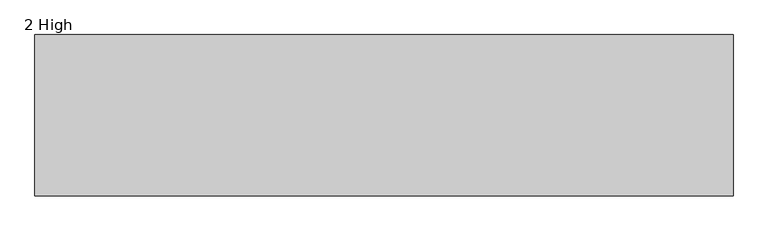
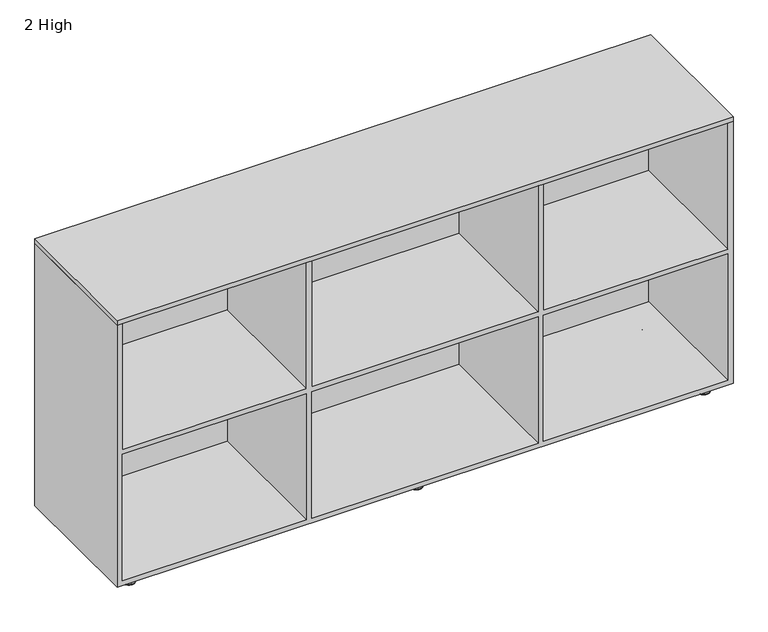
"""IFC4 building model written with IfcOpenShell, lengths in millimetres: furniture geometry, Steelcase Turnstone - Bivi - Storage - Depot : 2 High."""

from ifc_helpers import new_model, si_unit, point, frame, frame_2d, origin, place, context, project, spatial, polyline, circle_curve, ellipse_curve, trimmed, segment, composite_curve, outline, extrude, faceted_brep, source, transform, mapped, element, save
from ifc_brep_helpers import plane_surface, cylinder_surface, revolved_surface, spline_surface, advanced_brep


def furniture_2_high_e7bb6557(model_context):
    return source(origin(), model_context, "Body", "SolidModel", [
        extrude(outline(polyline([(1524.0, 0.0), (0.0, 0.0), (0.0, 352.425), (1524.0, 352.425), (1524.0, 0.0)])), frame((0.0, 0.0, 711.2), z_axis=(0.0, 0.0, 1.0), x_axis=(1.0, 0.0, 0.0)), (0.0, 0.0, 1.0), 11.8411135),
        advanced_brep(
        [(776.7323801, 38.0780241, 2.6178944), (747.2988961, 38.0780241, 2.6178944), (762.0156381, 38.0780241, 2.6178944), (769.706563, 38.0780241, 8.8411838), (754.3247132, 38.0780241, 8.8411838), (769.706563, 38.0780241, 10.8986525), (754.3247132, 38.0780241, 10.8986525), (762.0156381, 38.0780241, 10.8986525)],
        [
            (0, 1, circle_curve(frame((762.0156381, 38.0780241, 2.6178944), z_axis=(0.0, 0.0, -1.0), x_axis=(-1.0, 0.0, 0.0)), 14.716742)),
            (1, 2),
            (2, 0),
            (1, 0, circle_curve(frame((762.0156381, 38.0780241, 2.6178944), z_axis=(0.0, 0.0, -1.0), x_axis=(-1.0, 0.0, 0.0)), 14.716742)),
            (3, 4, circle_curve(frame((762.0156381, 38.0780241, 8.8411838), z_axis=(0.0, 0.0, -1.0), x_axis=(-1.0, 0.0, 0.0)), 7.6909249)),
            (4, 1, circle_curve(frame((748.0218845, 38.0780241, 8.8792349), z_axis=(0.0, 1.0, 0.0), x_axis=(1.0, 0.0, 0.0)), 6.3029436)),
            (0, 3, circle_curve(frame((776.0093917, 38.0780241, 8.8792349), z_axis=(0.0, 1.0, 0.0), x_axis=(-1.0, 0.0, 0.0)), 6.3029436)),
            (4, 3, circle_curve(frame((762.0156381, 38.0780241, 8.8411838), z_axis=(0.0, 0.0, -1.0), x_axis=(-1.0, 0.0, 0.0)), 7.6909249)),
            (5, 6, circle_curve(frame((762.0156381, 38.0780241, 10.8986525), z_axis=(0.0, 0.0, -1.0), x_axis=(-1.0, 0.0, 0.0)), 7.6909249)),
            (6, 4),
            (3, 5),
            (6, 5, circle_curve(frame((762.0156381, 38.0780241, 10.8986525), z_axis=(0.0, 0.0, -1.0), x_axis=(-1.0, 0.0, 0.0)), 7.6909249)),
            (7, 6),
            (5, 7),
        ],
        [
            plane_surface(frame((762.0156381, 38.0780241, 2.6178944), z_axis=(0.0, 0.0, -1.0), x_axis=(-1.0, 0.0, 0.0))),
            revolved_surface(trimmed(ellipse_curve(frame((748.0218845, 38.0780241, 8.8792349), z_axis=(0.0, -1.0, 0.0), x_axis=(1.0, 0.0, 0.0)), 6.3029436, 6.3029436), [point((747.2988961, 38.0780241, 2.6178944))], [point((754.3247132, 38.0780241, 8.8411838))], True, "CARTESIAN"), (762.0156381, 38.0780241, 10.8986525), (0.0, 0.0, 1.0)),
            cylinder_surface(frame((762.0156381, 38.0780241, 10.8986525), z_axis=(0.0, 0.0, 1.0), x_axis=(-1.0, 0.0, 0.0)), 7.6909249),
            plane_surface(frame((762.0156381, 38.0780241, 10.8986525), z_axis=(0.0, 0.0, 1.0), x_axis=(-1.0, 0.0, 0.0))),
        ],
        [
            (0, [[1, 2, 3]]),
            (0, [[4, -3, -2]]),
            (1, [[5, 6, -1, 7]]),
            (1, [[8, -7, -4, -6]]),
            (2, [[9, 10, -5, 11]]),
            (2, [[12, -11, -8, -10]]),
            (3, [[13, -9, 14]]),
            (3, [[-14, -12, -13]]),
        ],
    ),
        advanced_brep(
        [(775.1743443, 38.0780241, 0.0), (748.8795601, 38.0780241, 0.0), (762.0269522, 38.0780241, 0.0), (776.7550083, 38.0780241, 1.580664), (747.2988961, 38.0780241, 1.580664), (776.7550083, 38.0780241, 2.6178944), (747.2988961, 38.0780241, 2.6178944), (762.0269522, 38.0780241, 2.6178944)],
        [
            (0, 1, circle_curve(frame((762.0269522, 38.0780241, 0.0), z_axis=(0.0, 0.0, -1.0), x_axis=(-1.0, 0.0, 0.0)), 13.1473921)),
            (1, 2),
            (2, 0),
            (1, 0, circle_curve(frame((762.0269522, 38.0780241, 0.0), z_axis=(0.0, 0.0, -1.0), x_axis=(-1.0, 0.0, 0.0)), 13.1473921)),
            (3, 4, circle_curve(frame((762.0269522, 38.0780241, 1.580664), z_axis=(0.0, 0.0, -1.0), x_axis=(-1.0, 0.0, 0.0)), 14.7280561)),
            (4, 1, circle_curve(frame((748.8795601, 38.0780241, 1.580664), z_axis=(0.0, -1.0, 0.0), x_axis=(1.0, 0.0, 0.0)), 1.580664)),
            (0, 3, circle_curve(frame((775.1743443, 38.0780241, 1.580664), z_axis=(0.0, -1.0, 0.0), x_axis=(-1.0, 0.0, 0.0)), 1.580664)),
            (4, 3, circle_curve(frame((762.0269522, 38.0780241, 1.580664), z_axis=(0.0, 0.0, -1.0), x_axis=(-1.0, 0.0, 0.0)), 14.7280561)),
            (5, 6, circle_curve(frame((762.0269522, 38.0780241, 2.6178944), z_axis=(0.0, 0.0, -1.0), x_axis=(-1.0, 0.0, 0.0)), 14.7280561)),
            (6, 4),
            (3, 5),
            (6, 5, circle_curve(frame((762.0269522, 38.0780241, 2.6178944), z_axis=(0.0, 0.0, -1.0), x_axis=(-1.0, 0.0, 0.0)), 14.7280561)),
            (7, 6),
            (5, 7),
        ],
        [
            plane_surface(frame((762.0269522, 38.0780241, 0.0), z_axis=(0.0, 0.0, -1.0), x_axis=(-1.0, 0.0, 0.0))),
            revolved_surface(trimmed(ellipse_curve(frame((748.8795601, 38.0780241, 1.580664), z_axis=(0.0, 1.0, 0.0), x_axis=(1.0, 0.0, 0.0)), 1.580664, 1.580664), [point((748.8795601, 38.0780241, 0.0))], [point((747.2988961, 38.0780241, 1.580664))], True, "CARTESIAN"), (762.0269522, 38.0780241, 2.6178944), (0.0, 0.0, 1.0)),
            cylinder_surface(frame((762.0269522, 38.0780241, 2.6178944), z_axis=(0.0, 0.0, 1.0), x_axis=(-1.0, 0.0, 0.0)), 14.7280561),
            plane_surface(frame((762.0269522, 38.0780241, 2.6178944), z_axis=(0.0, 0.0, 1.0), x_axis=(-1.0, 0.0, 0.0))),
        ],
        [
            (0, [[1, 2, 3]]),
            (0, [[4, -3, -2]]),
            (1, [[5, 6, -1, 7]]),
            (1, [[8, -7, -4, -6]]),
            (2, [[9, 10, -5, 11]]),
            (2, [[12, -11, -8, -10]]),
            (3, [[13, -9, 14]]),
            (3, [[-14, -12, -13]]),
        ],
    ),
        extrude(outline(composite_curve([segment(trimmed(circle_curve(frame_2d((762.0156381, 38.1183079)), 3.9557313), [point((758.0599068, 38.1183079))], [point((765.9713694, 38.1183079))], False, "CARTESIAN"), True, "CONTINUOUS"), segment(trimmed(circle_curve(frame_2d((762.0156381, 38.1183079)), 3.9557313), [point((765.9713694, 38.1183079))], [point((758.0599068, 38.1183079))], False, "CARTESIAN"), True, "CONTINUOUS")], self_intersect=False)), frame((0.0, 0.0, 10.8986525), z_axis=(0.0, 0.0, 1.0), x_axis=(1.0, 0.0, 0.0)), (0.0, 0.0, 1.0), 11.6640053),
        advanced_brep(
        [(758.0822362, 38.1098067, 22.5626578), (765.9722002, 38.1098067, 22.5626578), (759.079, 38.1098067, 23.622), (764.9502172, 38.1098067, 23.622)],
        [
            (0, 1, circle_curve(frame((762.0272182, 38.1098067, 22.5626578), z_axis=(0.0, 0.0, -1.0), x_axis=(1.0, 0.0, 0.0)), 3.944982)),
            (1, 0, circle_curve(frame((762.0272182, 38.1098067, 22.5626578), z_axis=(0.0, 0.0, -1.0), x_axis=(1.0, 0.0, 0.0)), 3.944982)),
            (2, 3, circle_curve(frame((762.0146086, 38.1098067, 23.622), z_axis=(0.0, 0.0, 1.0), x_axis=(1.0, 0.0, 0.0)), 2.9356086)),
            (3, 2, circle_curve(frame((762.0146086, 38.1098067, 23.622), z_axis=(0.0, 0.0, 1.0), x_axis=(1.0, 0.0, 0.0)), 2.9356086)),
            (3, 1),
            (0, 2),
        ],
        [
            plane_surface(frame((762.0272182, 38.1098067, 22.5626578), z_axis=(0.0, 0.0, -1.0), x_axis=(0.0, -1.0, 0.0))),
            plane_surface(frame((762.0146086, 38.1098067, 23.622), z_axis=(0.0, 0.0, 1.0), x_axis=(0.0, -1.0, 0.0))),
            spline_surface(2, 1, [[(759.079, 38.1098067, 23.622), (758.0822362, 38.1098067, 22.5626578)], [(759.079, 41.04541530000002, 23.622), (758.0822362, 42.05478869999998, 22.5626578)], [(762.0146086, 41.04541530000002, 23.622), (762.0272182, 42.05478869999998, 22.5626578)], [(764.9502172, 41.04541530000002, 23.622), (765.9722002, 42.05478869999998, 22.5626578)], [(764.9502172, 38.1098067, 23.622), (765.9722002, 38.1098067, 22.5626578)]], [3, 2, 3], [2, 2], [0.0, 1.0, 2.0], [0.0, 1.0], weights=[[1.0, 1.0], [0.7071067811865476, 0.7071067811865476], [1.0, 1.0], [0.7071067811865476, 0.7071067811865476], [1.0, 1.0]]),
            spline_surface(2, 1, [[(764.9502172, 38.1098067, 23.622), (765.9722002, 38.1098067, 22.5626578)], [(764.9502172, 35.17419809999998, 23.622), (765.9722002, 34.16482470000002, 22.5626578)], [(762.0146086, 35.17419809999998, 23.622), (762.0272182, 34.16482470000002, 22.5626578)], [(759.079, 35.17419809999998, 23.622), (758.0822362, 34.16482470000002, 22.5626578)], [(759.079, 38.1098067, 23.622), (758.0822362, 38.1098067, 22.5626578)]], [3, 2, 3], [2, 2], [0.0, 1.0, 2.0], [0.0, 1.0], weights=[[1.0, 1.0], [0.7071067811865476, 0.7071067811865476], [1.0, 1.0], [0.7071067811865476, 0.7071067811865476], [1.0, 1.0]]),
        ],
        [
            (0, [[1, 2]]),
            (1, [[3, 4]]),
            (2, [[-4, 5, -1, 6]]),
            (3, [[-3, -6, -2, -5]]),
        ],
    ),
        advanced_brep(
        [(769.706563, 314.3469759, 10.8986525), (754.3247132, 314.3469759, 10.8986525), (762.0156381, 314.3469759, 10.8986525), (769.706563, 314.3469759, 8.8411838), (754.3247132, 314.3469759, 8.8411838), (776.7323801, 314.3469759, 2.6178944), (747.2988961, 314.3469759, 2.6178944), (762.0156381, 314.3469759, 2.6178944)],
        [
            (0, 1, circle_curve(frame((762.0156381, 314.3469759, 10.8986525), z_axis=(0.0, 0.0, 1.0), x_axis=(-1.0, 0.0, 0.0)), 7.6909249)),
            (1, 2),
            (2, 0),
            (1, 0, circle_curve(frame((762.0156381, 314.3469759, 10.8986525), z_axis=(0.0, 0.0, 1.0), x_axis=(-1.0, 0.0, 0.0)), 7.6909249)),
            (3, 4, circle_curve(frame((762.0156381, 314.3469759, 8.8411838), z_axis=(0.0, 0.0, 1.0), x_axis=(-1.0, 0.0, 0.0)), 7.6909249)),
            (4, 1),
            (0, 3),
            (4, 3, circle_curve(frame((762.0156381, 314.3469759, 8.8411838), z_axis=(0.0, 0.0, 1.0), x_axis=(-1.0, 0.0, 0.0)), 7.6909249)),
            (5, 6, circle_curve(frame((762.0156381, 314.3469759, 2.6178944), z_axis=(0.0, 0.0, 1.0), x_axis=(-1.0, 0.0, 0.0)), 14.716742)),
            (6, 4, circle_curve(frame((748.0218845, 314.3469759, 8.8792349), z_axis=(0.0, -1.0, 0.0), x_axis=(1.0, 0.0, 0.0)), 6.3029436)),
            (3, 5, circle_curve(frame((776.0093917, 314.3469759, 8.8792349), z_axis=(0.0, -1.0, 0.0), x_axis=(-1.0, 0.0, 0.0)), 6.3029436)),
            (6, 5, circle_curve(frame((762.0156381, 314.3469759, 2.6178944), z_axis=(0.0, 0.0, 1.0), x_axis=(-1.0, 0.0, 0.0)), 14.716742)),
            (7, 6),
            (5, 7),
        ],
        [
            plane_surface(frame((762.0156381, 314.3469759, 10.8986525), z_axis=(0.0, 0.0, 1.0), x_axis=(-1.0, 0.0, 0.0))),
            cylinder_surface(frame((762.0156381, 314.3469759, 10.8986525), z_axis=(0.0, 0.0, -1.0), x_axis=(-1.0, 0.0, 0.0)), 7.6909249),
            revolved_surface(trimmed(ellipse_curve(frame((748.0218845, 314.3469759, 8.8792349), z_axis=(0.0, 1.0, 0.0), x_axis=(1.0, 0.0, 0.0)), 6.3029436, 6.3029436), [point((754.3247132, 314.3469759, 8.8411838))], [point((747.2988961, 314.3469759, 2.6178944))], True, "CARTESIAN"), (762.0156381, 314.3469759, 10.8986525), (0.0, 0.0, -1.0)),
            plane_surface(frame((762.0156381, 314.3469759, 2.6178944), z_axis=(0.0, 0.0, -1.0), x_axis=(-1.0, 0.0, 0.0))),
        ],
        [
            (0, [[1, 2, 3]]),
            (0, [[4, -3, -2]]),
            (1, [[5, 6, -1, 7]]),
            (1, [[8, -7, -4, -6]]),
            (2, [[9, 10, -5, 11]]),
            (2, [[12, -11, -8, -10]]),
            (3, [[13, -9, 14]]),
            (3, [[-14, -12, -13]]),
        ],
    ),
        advanced_brep(
        [(776.7550083, 314.3469759, 2.6178944), (747.2988961, 314.3469759, 2.6178944), (762.0269522, 314.3469759, 2.6178944), (776.7550083, 314.3469759, 1.580664), (747.2988961, 314.3469759, 1.580664), (775.1743443, 314.3469759, 0.0), (748.8795601, 314.3469759, 0.0), (762.0269522, 314.3469759, 0.0)],
        [
            (0, 1, circle_curve(frame((762.0269522, 314.3469759, 2.6178944), z_axis=(0.0, 0.0, 1.0), x_axis=(-1.0, 0.0, 0.0)), 14.7280561)),
            (1, 2),
            (2, 0),
            (1, 0, circle_curve(frame((762.0269522, 314.3469759, 2.6178944), z_axis=(0.0, 0.0, 1.0), x_axis=(-1.0, 0.0, 0.0)), 14.7280561)),
            (3, 4, circle_curve(frame((762.0269522, 314.3469759, 1.580664), z_axis=(0.0, 0.0, 1.0), x_axis=(-1.0, 0.0, 0.0)), 14.7280561)),
            (4, 1),
            (0, 3),
            (4, 3, circle_curve(frame((762.0269522, 314.3469759, 1.580664), z_axis=(0.0, 0.0, 1.0), x_axis=(-1.0, 0.0, 0.0)), 14.7280561)),
            (5, 6, circle_curve(frame((762.0269522, 314.3469759, 0.0), z_axis=(0.0, 0.0, 1.0), x_axis=(-1.0, 0.0, 0.0)), 13.1473921)),
            (6, 4, circle_curve(frame((748.8795601, 314.3469759, 1.580664), z_axis=(0.0, 1.0, 0.0), x_axis=(1.0, 0.0, 0.0)), 1.580664)),
            (3, 5, circle_curve(frame((775.1743443, 314.3469759, 1.580664), z_axis=(0.0, 1.0, 0.0), x_axis=(-1.0, 0.0, 0.0)), 1.580664)),
            (6, 5, circle_curve(frame((762.0269522, 314.3469759, 0.0), z_axis=(0.0, 0.0, 1.0), x_axis=(-1.0, 0.0, 0.0)), 13.1473921)),
            (7, 6),
            (5, 7),
        ],
        [
            plane_surface(frame((762.0269522, 314.3469759, 2.6178944), z_axis=(0.0, 0.0, 1.0), x_axis=(-1.0, 0.0, 0.0))),
            cylinder_surface(frame((762.0269522, 314.3469759, 2.6178944), z_axis=(0.0, 0.0, -1.0), x_axis=(-1.0, 0.0, 0.0)), 14.7280561),
            revolved_surface(trimmed(ellipse_curve(frame((748.8795601, 314.3469759, 1.580664), z_axis=(0.0, -1.0, 0.0), x_axis=(1.0, 0.0, 0.0)), 1.580664, 1.580664), [point((747.2988961, 314.3469759, 1.580664))], [point((748.8795601, 314.3469759, 0.0))], True, "CARTESIAN"), (762.0269522, 314.3469759, 2.6178944), (0.0, 0.0, -1.0)),
            plane_surface(frame((762.0269522, 314.3469759, 0.0), z_axis=(0.0, 0.0, -1.0), x_axis=(-1.0, 0.0, 0.0))),
        ],
        [
            (0, [[1, 2, 3]]),
            (0, [[4, -3, -2]]),
            (1, [[5, 6, -1, 7]]),
            (1, [[8, -7, -4, -6]]),
            (2, [[9, 10, -5, 11]]),
            (2, [[12, -11, -8, -10]]),
            (3, [[13, -9, 14]]),
            (3, [[-14, -12, -13]]),
        ],
    ),
        extrude(outline(composite_curve([segment(trimmed(circle_curve(frame_2d((762.0156381, 314.3066921)), 3.9557313), [point((758.0599068, 314.3066921))], [point((765.9713694, 314.3066921))], False, "CARTESIAN"), True, "CONTINUOUS"), segment(trimmed(circle_curve(frame_2d((762.0156381, 314.3066921)), 3.9557313), [point((765.9713694, 314.3066921))], [point((758.0599068, 314.3066921))], False, "CARTESIAN"), True, "CONTINUOUS")], self_intersect=False)), frame((0.0, 0.0, 10.8986525), z_axis=(0.0, 0.0, 1.0), x_axis=(1.0, 0.0, 0.0)), (0.0, 0.0, 1.0), 11.6640053),
        advanced_brep(
        [(758.0822362, 314.3151933, 22.5626578), (765.9722002, 314.3151933, 22.5626578), (759.079, 314.3151933, 23.622), (764.9502172, 314.3151933, 23.622)],
        [
            (0, 1, circle_curve(frame((762.0272182, 314.3151933, 22.5626578), z_axis=(0.0, 0.0, -1.0), x_axis=(1.0, 0.0, 0.0)), 3.944982)),
            (1, 0, circle_curve(frame((762.0272182, 314.3151933, 22.5626578), z_axis=(0.0, 0.0, -1.0), x_axis=(1.0, 0.0, 0.0)), 3.944982)),
            (2, 3, circle_curve(frame((762.0146086, 314.3151933, 23.622), z_axis=(0.0, 0.0, 1.0), x_axis=(1.0, 0.0, 0.0)), 2.9356086)),
            (3, 2, circle_curve(frame((762.0146086, 314.3151933, 23.622), z_axis=(0.0, 0.0, 1.0), x_axis=(1.0, 0.0, 0.0)), 2.9356086)),
            (3, 1),
            (0, 2),
        ],
        [
            plane_surface(frame((762.0272182, 314.3151933, 22.5626578), z_axis=(0.0, 0.0, -1.0), x_axis=(0.0, -1.0, 0.0))),
            plane_surface(frame((762.0146086, 314.3151933, 23.622), z_axis=(0.0, 0.0, 1.0), x_axis=(0.0, -1.0, 0.0))),
            spline_surface(2, 1, [[(759.079, 314.3151933, 23.622), (758.0822362, 314.3151933, 22.5626578)], [(759.079, 317.2508019, 23.622), (758.0822362, 318.26017529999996, 22.5626578)], [(762.0146086, 317.2508019, 23.622), (762.0272182, 318.26017529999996, 22.5626578)], [(764.9502172, 317.2508019, 23.622), (765.9722002, 318.26017529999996, 22.5626578)], [(764.9502172, 314.3151933, 23.622), (765.9722002, 314.3151933, 22.5626578)]], [3, 2, 3], [2, 2], [0.0, 1.0, 2.0], [0.0, 1.0], weights=[[1.0, 1.0], [0.7071067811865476, 0.7071067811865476], [1.0, 1.0], [0.7071067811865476, 0.7071067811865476], [1.0, 1.0]]),
            spline_surface(2, 1, [[(764.9502172, 314.3151933, 23.622), (765.9722002, 314.3151933, 22.5626578)], [(764.9502172, 311.37958469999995, 23.622), (765.9722002, 310.3702113, 22.5626578)], [(762.0146086, 311.37958469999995, 23.622), (762.0272182, 310.3702113, 22.5626578)], [(759.079, 311.37958469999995, 23.622), (758.0822362, 310.3702113, 22.5626578)], [(759.079, 314.3151933, 23.622), (758.0822362, 314.3151933, 22.5626578)]], [3, 2, 3], [2, 2], [0.0, 1.0, 2.0], [0.0, 1.0], weights=[[1.0, 1.0], [0.7071067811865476, 0.7071067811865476], [1.0, 1.0], [0.7071067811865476, 0.7071067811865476], [1.0, 1.0]]),
        ],
        [
            (0, [[1, 2]]),
            (1, [[3, 4]]),
            (2, [[-4, 5, -1, 6]]),
            (3, [[-3, -6, -2, -5]]),
        ],
    ),
        faceted_brep([(0.0, 0.0, 711.2), (0.0, 0.0, 25.4), (1524.0, 0.0, 25.4), (1524.0, 0.0, 711.2), (1510.9189671, 0.0, 711.2), (1510.9189671, 0.0, 381.0), (1054.3793919, 0.0, 381.0), (1054.3793919, 0.0, 711.2), (1041.2984316, 0.0, 711.2), (1041.2984316, 0.0, 381.0), (481.3553933, 0.0, 381.0), (481.3553933, 0.0, 711.2), (468.2743967, 0.0, 711.2), (468.2743967, 0.0, 381.0), (13.081, 0.0, 381.0), (13.081, 0.0, 711.2), (13.081, 0.0, 368.3), (468.2743967, 0.0, 368.3), (468.2743967, 0.0, 346.6923436), (468.2743967, 0.0, 38.1), (13.081, 0.0, 38.1), (13.081, 0.0, 346.6923436), (481.3553933, 0.0, 368.3), (1041.2984316, 0.0, 368.3), (1041.2984316, 0.0, 346.6923436), (1041.2984316, 0.0, 38.1), (481.3553933, 0.0, 38.1), (481.3553933, 0.0, 346.6923436), (1054.3793919, 0.0, 368.3), (1510.9189671, 0.0, 368.3), (1510.9189671, 0.0, 346.6923436), (1510.9189671, 0.0, 38.1), (1054.3793919, 0.0, 38.1), (1054.3793919, 0.0, 346.6923436), (1524.0, 352.425, 711.2), (1524.0, 352.425, 25.4), (0.0, 352.425, 25.4), (0.0, 352.425, 711.2), (13.081, 339.344, 711.2), (468.2743967, 339.344, 711.2), (481.3553933, 339.344, 711.2), (1041.2984316, 339.344, 711.2), (1054.3793919, 339.344, 711.2), (1510.9189671, 339.344, 711.2), (1054.3793919, 339.344, 381.0), (1510.9189671, 339.344, 381.0), (481.3553933, 339.344, 381.0), (1041.2984316, 339.344, 381.0), (13.081, 339.344, 381.0), (468.2743967, 339.344, 381.0), (468.2743967, 339.344, 368.3), (13.081, 339.344, 368.3), (13.081, 339.344, 346.6923436), (13.081, 339.344, 38.1), (468.2743967, 339.344, 38.1), (468.2743967, 339.344, 346.6923436), (1041.2984316, 339.344, 368.3), (481.3553933, 339.344, 368.3), (481.3553933, 339.344, 346.6923436), (481.3553933, 339.344, 38.1), (1041.2984316, 339.344, 38.1), (1041.2984316, 339.344, 346.6923436), (1510.9189671, 339.344, 368.3), (1054.3793919, 339.344, 368.3), (1054.3793919, 339.344, 346.6923436), (1054.3793919, 339.344, 38.1), (1510.9189671, 339.344, 38.1), (1510.9189671, 339.344, 346.6923436)], [[[0, 1, 2, 3, 4, 5, 6, 7, 8, 9, 10, 11, 12, 13, 14, 15], [16, 17, 18, 19, 20, 21], [22, 23, 24, 25, 26, 27], [28, 29, 30, 31, 32, 33]], [[34, 35, 36, 37]], [[34, 37, 0, 15, 38, 39, 12, 11, 40, 41, 8, 7, 42, 43, 4, 3]], [[1, 0, 37, 36]], [[2, 1, 36, 35]], [[3, 2, 35, 34]], [[42, 44, 45, 43]], [[40, 46, 47, 41]], [[38, 48, 49, 39]], [[50, 51, 52, 53, 54, 55]], [[56, 57, 58, 59, 60, 61]], [[62, 63, 64, 65, 66, 67]], [[48, 38, 15, 14]], [[49, 48, 14, 13]], [[39, 49, 13, 12]], [[46, 40, 11, 10]], [[47, 46, 10, 9]], [[41, 47, 9, 8]], [[44, 42, 7, 6]], [[45, 44, 6, 5]], [[43, 45, 5, 4]], [[51, 16, 21, 20, 53, 52]], [[54, 53, 20, 19]], [[17, 50, 55, 54, 19, 18]], [[57, 22, 27, 26, 59, 58]], [[60, 59, 26, 25]], [[23, 56, 61, 60, 25, 24]], [[63, 28, 33, 32, 65, 64]], [[66, 65, 32, 31]], [[29, 62, 67, 66, 31, 30]], [[51, 50, 17, 16]], [[57, 56, 23, 22]], [[63, 62, 29, 28]]]),
        extrude(outline(polyline([(25.4000008, 13.0809966), (25.4000008, 339.344), (76.2, 339.344), (76.2, 13.0809966), (25.4000008, 13.0809966)])), frame((0.0, 0.0, 15.8750011), z_axis=(0.0, 0.0, 1.0), x_axis=(1.0, 0.0, 0.0)), (0.0, 0.0, 1.0), 9.5249989),
        extrude(outline(polyline([(736.6000242, 13.0809966), (736.6000242, 339.344), (787.4000235, 339.344), (787.4000235, 13.0809966), (736.6000242, 13.0809966)])), frame((0.0, 0.0, 15.8750011), z_axis=(0.0, 0.0, 1.0), x_axis=(1.0, 0.0, 0.0)), (0.0, 0.0, 1.0), 9.5249989),
        extrude(outline(polyline([(1447.8, 13.0809966), (1447.8, 339.344), (1498.5999992, 339.344), (1498.5999992, 13.0809966), (1447.8, 13.0809966)])), frame((0.0, 0.0, 15.8750011), z_axis=(0.0, 0.0, 1.0), x_axis=(1.0, 0.0, 0.0)), (0.0, 0.0, 1.0), 9.5249989),
        advanced_brep(
        [(1465.5173965, 38.0780241, 10.8986525), (1480.8992463, 38.0780241, 10.8986525), (1473.2083214, 38.0780241, 10.8986525), (1465.5173965, 38.0780241, 8.8411838), (1480.8992463, 38.0780241, 8.8411838), (1458.4915794, 38.0780241, 2.6178944), (1487.9250634, 38.0780241, 2.6178944), (1473.2083214, 38.0780241, 2.6178944)],
        [
            (0, 1, circle_curve(frame((1473.2083214, 38.0780241, 10.8986525), z_axis=(0.0, 0.0, 1.0), x_axis=(1.0, 0.0, 0.0)), 7.6909249)),
            (1, 2),
            (2, 0),
            (1, 0, circle_curve(frame((1473.2083214, 38.0780241, 10.8986525), z_axis=(0.0, 0.0, 1.0), x_axis=(1.0, 0.0, 0.0)), 7.6909249)),
            (3, 4, circle_curve(frame((1473.2083214, 38.0780241, 8.8411838), z_axis=(0.0, 0.0, 1.0), x_axis=(1.0, 0.0, 0.0)), 7.6909249)),
            (4, 1),
            (0, 3),
            (4, 3, circle_curve(frame((1473.2083214, 38.0780241, 8.8411838), z_axis=(0.0, 0.0, 1.0), x_axis=(1.0, 0.0, 0.0)), 7.6909249)),
            (5, 6, circle_curve(frame((1473.2083214, 38.0780241, 2.6178944), z_axis=(0.0, 0.0, 1.0), x_axis=(1.0, 0.0, 0.0)), 14.716742)),
            (6, 4, circle_curve(frame((1487.202075, 38.0780241, 8.8792349), z_axis=(0.0, 1.0, 0.0), x_axis=(-1.0, 0.0, 0.0)), 6.3029436)),
            (3, 5, circle_curve(frame((1459.2145678, 38.0780241, 8.8792349), z_axis=(0.0, 1.0, 0.0), x_axis=(1.0, 0.0, 0.0)), 6.3029436)),
            (6, 5, circle_curve(frame((1473.2083214, 38.0780241, 2.6178944), z_axis=(0.0, 0.0, 1.0), x_axis=(1.0, 0.0, 0.0)), 14.716742)),
            (7, 6),
            (5, 7),
        ],
        [
            plane_surface(frame((1473.2083214, 38.0780241, 10.8986525), z_axis=(0.0, 0.0, 1.0), x_axis=(1.0, 0.0, 0.0))),
            cylinder_surface(frame((1473.2083214, 38.0780241, 10.8986525), z_axis=(0.0, 0.0, -1.0), x_axis=(1.0, 0.0, 0.0)), 7.6909249),
            revolved_surface(trimmed(ellipse_curve(frame((1487.202075, 38.0780241, 8.8792349), z_axis=(0.0, -1.0, 0.0), x_axis=(-1.0, 0.0, 0.0)), 6.3029436, 6.3029436), [point((1480.8992463, 38.0780241, 8.8411838))], [point((1487.9250634, 38.0780241, 2.6178944))], True, "CARTESIAN"), (1473.2083214, 38.0780241, 10.8986525), (0.0, 0.0, -1.0)),
            plane_surface(frame((1473.2083214, 38.0780241, 2.6178944), z_axis=(0.0, 0.0, -1.0), x_axis=(1.0, 0.0, 0.0))),
        ],
        [
            (0, [[1, 2, 3]]),
            (0, [[4, -3, -2]]),
            (1, [[5, 6, -1, 7]]),
            (1, [[8, -7, -4, -6]]),
            (2, [[9, 10, -5, 11]]),
            (2, [[12, -11, -8, -10]]),
            (3, [[13, -9, 14]]),
            (3, [[-14, -12, -13]]),
        ],
    ),
        advanced_brep(
        [(1458.4689512, 38.0780241, 2.6178944), (1487.9250634, 38.0780241, 2.6178944), (1473.1970073, 38.0780241, 2.6178944), (1458.4689512, 38.0780241, 1.580664), (1487.9250634, 38.0780241, 1.580664), (1460.0496152, 38.0780241, 0.0), (1486.3443994, 38.0780241, 0.0), (1473.1970073, 38.0780241, 0.0)],
        [
            (0, 1, circle_curve(frame((1473.1970073, 38.0780241, 2.6178944), z_axis=(0.0, 0.0, 1.0), x_axis=(1.0, 0.0, 0.0)), 14.7280561)),
            (1, 2),
            (2, 0),
            (1, 0, circle_curve(frame((1473.1970073, 38.0780241, 2.6178944), z_axis=(0.0, 0.0, 1.0), x_axis=(1.0, 0.0, 0.0)), 14.7280561)),
            (3, 4, circle_curve(frame((1473.1970073, 38.0780241, 1.580664), z_axis=(0.0, 0.0, 1.0), x_axis=(1.0, 0.0, 0.0)), 14.7280561)),
            (4, 1),
            (0, 3),
            (4, 3, circle_curve(frame((1473.1970073, 38.0780241, 1.580664), z_axis=(0.0, 0.0, 1.0), x_axis=(1.0, 0.0, 0.0)), 14.7280561)),
            (5, 6, circle_curve(frame((1473.1970073, 38.0780241, 0.0), z_axis=(0.0, 0.0, 1.0), x_axis=(1.0, 0.0, 0.0)), 13.1473921)),
            (6, 4, circle_curve(frame((1486.3443994, 38.0780241, 1.580664), z_axis=(0.0, -1.0, 0.0), x_axis=(-1.0, 0.0, 0.0)), 1.580664)),
            (3, 5, circle_curve(frame((1460.0496152, 38.0780241, 1.580664), z_axis=(0.0, -1.0, 0.0), x_axis=(1.0, 0.0, 0.0)), 1.580664)),
            (6, 5, circle_curve(frame((1473.1970073, 38.0780241, 0.0), z_axis=(0.0, 0.0, 1.0), x_axis=(1.0, 0.0, 0.0)), 13.1473921)),
            (7, 6),
            (5, 7),
        ],
        [
            plane_surface(frame((1473.1970073, 38.0780241, 2.6178944), z_axis=(0.0, 0.0, 1.0), x_axis=(1.0, 0.0, 0.0))),
            cylinder_surface(frame((1473.1970073, 38.0780241, 2.6178944), z_axis=(0.0, 0.0, -1.0), x_axis=(1.0, 0.0, 0.0)), 14.7280561),
            revolved_surface(trimmed(ellipse_curve(frame((1486.3443994, 38.0780241, 1.580664), z_axis=(0.0, 1.0, 0.0), x_axis=(-1.0, 0.0, 0.0)), 1.580664, 1.580664), [point((1487.9250634, 38.0780241, 1.580664))], [point((1486.3443994, 38.0780241, 0.0))], True, "CARTESIAN"), (1473.1970073, 38.0780241, 2.6178944), (0.0, 0.0, -1.0)),
            plane_surface(frame((1473.1970073, 38.0780241, 0.0), z_axis=(0.0, 0.0, -1.0), x_axis=(1.0, 0.0, 0.0))),
        ],
        [
            (0, [[1, 2, 3]]),
            (0, [[4, -3, -2]]),
            (1, [[5, 6, -1, 7]]),
            (1, [[8, -7, -4, -6]]),
            (2, [[9, 10, -5, 11]]),
            (2, [[12, -11, -8, -10]]),
            (3, [[13, -9, 14]]),
            (3, [[-14, -12, -13]]),
        ],
    ),
        extrude(outline(composite_curve([segment(trimmed(circle_curve(frame_2d((1473.2083214, 38.1183079)), 3.9557313), [point((1477.1640527, 38.1183079))], [point((1469.2525901, 38.1183079))], False, "CARTESIAN"), True, "CONTINUOUS"), segment(trimmed(circle_curve(frame_2d((1473.2083214, 38.1183079)), 3.9557313), [point((1469.2525901, 38.1183079))], [point((1477.1640527, 38.1183079))], False, "CARTESIAN"), True, "CONTINUOUS")], self_intersect=False)), frame((0.0, 0.0, 10.8986525), z_axis=(0.0, 0.0, 1.0), x_axis=(1.0, 0.0, 0.0)), (0.0, 0.0, 1.0), 11.6640053),
        advanced_brep(
        [(1477.1417233, 38.1098067, 22.5626578), (1469.2517593, 38.1098067, 22.5626578), (1476.1449595, 38.1098067, 23.622), (1470.2737423, 38.1098067, 23.622)],
        [
            (0, 1, circle_curve(frame((1473.1967413, 38.1098067, 22.5626578), z_axis=(0.0, 0.0, -1.0), x_axis=(-1.0, 0.0, 0.0)), 3.944982)),
            (1, 0, circle_curve(frame((1473.1967413, 38.1098067, 22.5626578), z_axis=(0.0, 0.0, -1.0), x_axis=(-1.0, 0.0, 0.0)), 3.944982)),
            (2, 3, circle_curve(frame((1473.2093509, 38.1098067, 23.622), z_axis=(0.0, 0.0, 1.0), x_axis=(-1.0, 0.0, 0.0)), 2.9356086)),
            (3, 2, circle_curve(frame((1473.2093509, 38.1098067, 23.622), z_axis=(0.0, 0.0, 1.0), x_axis=(-1.0, 0.0, 0.0)), 2.9356086)),
            (3, 1),
            (0, 2),
        ],
        [
            plane_surface(frame((1473.1967413, 38.1098067, 22.5626578), z_axis=(0.0, 0.0, -1.0), x_axis=(0.0, 1.0, 0.0))),
            plane_surface(frame((1473.2093509, 38.1098067, 23.622), z_axis=(0.0, 0.0, 1.0), x_axis=(0.0, 1.0, 0.0))),
            spline_surface(2, 1, [[(1476.1449595, 38.1098067, 23.622), (1477.1417233, 38.1098067, 22.5626578)], [(1476.1449595, 35.17419809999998, 23.622), (1477.1417233, 34.16482470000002, 22.5626578)], [(1473.2093509, 35.17419809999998, 23.622), (1473.1967413, 34.16482470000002, 22.5626578)], [(1470.2737422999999, 35.17419809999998, 23.622), (1469.2517593, 34.16482470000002, 22.5626578)], [(1470.2737423, 38.1098067, 23.622), (1469.2517593, 38.1098067, 22.5626578)]], [3, 2, 3], [2, 2], [0.0, 1.0, 2.0], [0.0, 1.0], weights=[[1.0, 1.0], [0.7071067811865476, 0.7071067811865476], [1.0, 1.0], [0.7071067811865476, 0.7071067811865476], [1.0, 1.0]]),
            spline_surface(2, 1, [[(1470.2737423, 38.1098067, 23.622), (1469.2517593, 38.1098067, 22.5626578)], [(1470.2737423, 41.045415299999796, 23.622), (1469.2517593, 42.05478869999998, 22.5626578)], [(1473.2093509, 41.045415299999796, 23.622), (1473.1967413, 42.05478869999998, 22.5626578)], [(1476.1449594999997, 41.045415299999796, 23.622), (1477.1417233, 42.05478869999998, 22.5626578)], [(1476.1449595, 38.1098067, 23.622), (1477.1417233, 38.1098067, 22.5626578)]], [3, 2, 3], [2, 2], [0.0, 1.0, 2.0], [0.0, 1.0], weights=[[1.0, 1.0], [0.7071067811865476, 0.7071067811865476], [1.0, 1.0], [0.7071067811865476, 0.7071067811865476], [1.0, 1.0]]),
        ],
        [
            (0, [[1, 2]]),
            (1, [[3, 4]]),
            (2, [[-4, 5, -1, 6]]),
            (3, [[-3, -6, -2, -5]]),
        ],
    ),
        advanced_brep(
        [(65.5084206, 38.0780241, 2.6178944), (36.0749366, 38.0780241, 2.6178944), (50.7916786, 38.0780241, 2.6178944), (58.4826035, 38.0780241, 8.8411838), (43.1007537, 38.0780241, 8.8411838), (58.4826035, 38.0780241, 10.8986525), (43.1007537, 38.0780241, 10.8986525), (50.7916786, 38.0780241, 10.8986525)],
        [
            (0, 1, circle_curve(frame((50.7916786, 38.0780241, 2.6178944), z_axis=(0.0, 0.0, -1.0), x_axis=(-1.0, 0.0, 0.0)), 14.716742)),
            (1, 2),
            (2, 0),
            (1, 0, circle_curve(frame((50.7916786, 38.0780241, 2.6178944), z_axis=(0.0, 0.0, -1.0), x_axis=(-1.0, 0.0, 0.0)), 14.716742)),
            (3, 4, circle_curve(frame((50.7916786, 38.0780241, 8.8411838), z_axis=(0.0, 0.0, -1.0), x_axis=(-1.0, 0.0, 0.0)), 7.6909249)),
            (4, 1, circle_curve(frame((36.797925, 38.0780241, 8.8792349), z_axis=(0.0, 1.0, 0.0), x_axis=(1.0, 0.0, 0.0)), 6.3029436)),
            (0, 3, circle_curve(frame((64.7854322, 38.0780241, 8.8792349), z_axis=(0.0, 1.0, 0.0), x_axis=(-1.0, 0.0, 0.0)), 6.3029436)),
            (4, 3, circle_curve(frame((50.7916786, 38.0780241, 8.8411838), z_axis=(0.0, 0.0, -1.0), x_axis=(-1.0, 0.0, 0.0)), 7.6909249)),
            (5, 6, circle_curve(frame((50.7916786, 38.0780241, 10.8986525), z_axis=(0.0, 0.0, -1.0), x_axis=(-1.0, 0.0, 0.0)), 7.6909249)),
            (6, 4),
            (3, 5),
            (6, 5, circle_curve(frame((50.7916786, 38.0780241, 10.8986525), z_axis=(0.0, 0.0, -1.0), x_axis=(-1.0, 0.0, 0.0)), 7.6909249)),
            (7, 6),
            (5, 7),
        ],
        [
            plane_surface(frame((50.7916786, 38.0780241, 2.6178944), z_axis=(0.0, 0.0, -1.0), x_axis=(-1.0, 0.0, 0.0))),
            revolved_surface(trimmed(ellipse_curve(frame((36.797925, 38.0780241, 8.8792349), z_axis=(0.0, -1.0, 0.0), x_axis=(1.0, 0.0, 0.0)), 6.3029436, 6.3029436), [point((36.0749366, 38.0780241, 2.6178944))], [point((43.1007537, 38.0780241, 8.8411838))], True, "CARTESIAN"), (50.7916786, 38.0780241, 10.8986525), (0.0, 0.0, 1.0)),
            cylinder_surface(frame((50.7916786, 38.0780241, 10.8986525), z_axis=(0.0, 0.0, 1.0), x_axis=(-1.0, 0.0, 0.0)), 7.6909249),
            plane_surface(frame((50.7916786, 38.0780241, 10.8986525), z_axis=(0.0, 0.0, 1.0), x_axis=(-1.0, 0.0, 0.0))),
        ],
        [
            (0, [[1, 2, 3]]),
            (0, [[4, -3, -2]]),
            (1, [[5, 6, -1, 7]]),
            (1, [[8, -7, -4, -6]]),
            (2, [[9, 10, -5, 11]]),
            (2, [[12, -11, -8, -10]]),
            (3, [[13, -9, 14]]),
            (3, [[-14, -12, -13]]),
        ],
    ),
        advanced_brep(
        [(63.9503848, 38.0780241, 0.0), (37.6556006, 38.0780241, 0.0), (50.8029927, 38.0780241, 0.0), (65.5310488, 38.0780241, 1.580664), (36.0749366, 38.0780241, 1.580664), (65.5310488, 38.0780241, 2.6178944), (36.0749366, 38.0780241, 2.6178944), (50.8029927, 38.0780241, 2.6178944)],
        [
            (0, 1, circle_curve(frame((50.8029927, 38.0780241, 0.0), z_axis=(0.0, 0.0, -1.0), x_axis=(-1.0, 0.0, 0.0)), 13.1473921)),
            (1, 2),
            (2, 0),
            (1, 0, circle_curve(frame((50.8029927, 38.0780241, 0.0), z_axis=(0.0, 0.0, -1.0), x_axis=(-1.0, 0.0, 0.0)), 13.1473921)),
            (3, 4, circle_curve(frame((50.8029927, 38.0780241, 1.580664), z_axis=(0.0, 0.0, -1.0), x_axis=(-1.0, 0.0, 0.0)), 14.7280561)),
            (4, 1, circle_curve(frame((37.6556006, 38.0780241, 1.580664), z_axis=(0.0, -1.0, 0.0), x_axis=(1.0, 0.0, 0.0)), 1.580664)),
            (0, 3, circle_curve(frame((63.9503848, 38.0780241, 1.580664), z_axis=(0.0, -1.0, 0.0), x_axis=(-1.0, 0.0, 0.0)), 1.580664)),
            (4, 3, circle_curve(frame((50.8029927, 38.0780241, 1.580664), z_axis=(0.0, 0.0, -1.0), x_axis=(-1.0, 0.0, 0.0)), 14.7280561)),
            (5, 6, circle_curve(frame((50.8029927, 38.0780241, 2.6178944), z_axis=(0.0, 0.0, -1.0), x_axis=(-1.0, 0.0, 0.0)), 14.7280561)),
            (6, 4),
            (3, 5),
            (6, 5, circle_curve(frame((50.8029927, 38.0780241, 2.6178944), z_axis=(0.0, 0.0, -1.0), x_axis=(-1.0, 0.0, 0.0)), 14.7280561)),
            (7, 6),
            (5, 7),
        ],
        [
            plane_surface(frame((50.8029927, 38.0780241, 0.0), z_axis=(0.0, 0.0, -1.0), x_axis=(-1.0, 0.0, 0.0))),
            revolved_surface(trimmed(ellipse_curve(frame((37.6556006, 38.0780241, 1.580664), z_axis=(0.0, 1.0, 0.0), x_axis=(1.0, 0.0, 0.0)), 1.580664, 1.580664), [point((37.6556006, 38.0780241, 0.0))], [point((36.0749366, 38.0780241, 1.580664))], True, "CARTESIAN"), (50.8029927, 38.0780241, 2.6178944), (0.0, 0.0, 1.0)),
            cylinder_surface(frame((50.8029927, 38.0780241, 2.6178944), z_axis=(0.0, 0.0, 1.0), x_axis=(-1.0, 0.0, 0.0)), 14.7280561),
            plane_surface(frame((50.8029927, 38.0780241, 2.6178944), z_axis=(0.0, 0.0, 1.0), x_axis=(-1.0, 0.0, 0.0))),
        ],
        [
            (0, [[1, 2, 3]]),
            (0, [[4, -3, -2]]),
            (1, [[5, 6, -1, 7]]),
            (1, [[8, -7, -4, -6]]),
            (2, [[9, 10, -5, 11]]),
            (2, [[12, -11, -8, -10]]),
            (3, [[13, -9, 14]]),
            (3, [[-14, -12, -13]]),
        ],
    ),
        extrude(outline(composite_curve([segment(trimmed(circle_curve(frame_2d((50.7916786, 38.1183079)), 3.9557313), [point((46.8359473, 38.1183079))], [point((54.7474099, 38.1183079))], False, "CARTESIAN"), True, "CONTINUOUS"), segment(trimmed(circle_curve(frame_2d((50.7916786, 38.1183079)), 3.9557313), [point((54.7474099, 38.1183079))], [point((46.8359473, 38.1183079))], False, "CARTESIAN"), True, "CONTINUOUS")], self_intersect=False)), frame((0.0, 0.0, 10.8986525), z_axis=(0.0, 0.0, 1.0), x_axis=(1.0, 0.0, 0.0)), (0.0, 0.0, 1.0), 11.6640053),
        advanced_brep(
        [(46.8582767, 38.1098067, 22.5626578), (54.7482407, 38.1098067, 22.5626578), (47.8550405, 38.1098067, 23.622), (53.7262577, 38.1098067, 23.622)],
        [
            (0, 1, circle_curve(frame((50.8032587, 38.1098067, 22.5626578), z_axis=(0.0, 0.0, -1.0), x_axis=(1.0, 0.0, 0.0)), 3.944982)),
            (1, 0, circle_curve(frame((50.8032587, 38.1098067, 22.5626578), z_axis=(0.0, 0.0, -1.0), x_axis=(1.0, 0.0, 0.0)), 3.944982)),
            (2, 3, circle_curve(frame((50.7906491, 38.1098067, 23.622), z_axis=(0.0, 0.0, 1.0), x_axis=(1.0, 0.0, 0.0)), 2.9356086)),
            (3, 2, circle_curve(frame((50.7906491, 38.1098067, 23.622), z_axis=(0.0, 0.0, 1.0), x_axis=(1.0, 0.0, 0.0)), 2.9356086)),
            (3, 1),
            (0, 2),
        ],
        [
            plane_surface(frame((50.8032587, 38.1098067, 22.5626578), z_axis=(0.0, 0.0, -1.0), x_axis=(0.0, -1.0, 0.0))),
            plane_surface(frame((50.7906491, 38.1098067, 23.622), z_axis=(0.0, 0.0, 1.0), x_axis=(0.0, -1.0, 0.0))),
            spline_surface(2, 1, [[(47.8550405, 38.1098067, 23.622), (46.8582767, 38.1098067, 22.5626578)], [(47.8550405, 41.0454153, 23.622), (46.8582767, 42.0547887, 22.5626578)], [(50.7906491, 41.0454153, 23.622), (50.8032587, 42.0547887, 22.5626578)], [(53.726257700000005, 41.04541530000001, 23.622), (54.748240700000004, 42.05478870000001, 22.5626578)], [(53.7262577, 38.1098067, 23.622), (54.7482407, 38.1098067, 22.5626578)]], [3, 2, 3], [2, 2], [0.0, 1.0, 2.0], [0.0, 1.0], weights=[[1.0, 1.0], [0.7071067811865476, 0.7071067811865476], [1.0, 1.0], [0.7071067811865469, 0.7071067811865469], [1.0, 1.0]]),
            spline_surface(2, 1, [[(53.7262577, 38.1098067, 23.622), (54.7482407, 38.1098067, 22.5626578)], [(53.7262577, 35.174198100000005, 23.622), (54.7482407, 34.164824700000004, 22.5626578)], [(50.7906491, 35.174198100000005, 23.622), (50.8032587, 34.164824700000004, 22.5626578)], [(47.85504050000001, 35.17419810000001, 23.622), (46.858276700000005, 34.16482470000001, 22.5626578)], [(47.8550405, 38.1098067, 23.622), (46.8582767, 38.1098067, 22.5626578)]], [3, 2, 3], [2, 2], [0.0, 1.0, 2.0], [0.0, 1.0], weights=[[1.0, 1.0], [0.7071067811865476, 0.7071067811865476], [1.0, 1.0], [0.7071067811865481, 0.7071067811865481], [1.0, 1.0]]),
        ],
        [
            (0, [[1, 2]]),
            (1, [[3, 4]]),
            (2, [[-4, 5, -1, 6]]),
            (3, [[-3, -6, -2, -5]]),
        ],
    ),
        advanced_brep(
        [(1458.4915794, 314.3469759, 2.6178944), (1487.9250634, 314.3469759, 2.6178944), (1473.2083214, 314.3469759, 2.6178944), (1465.5173965, 314.3469759, 8.8411838), (1480.8992463, 314.3469759, 8.8411838), (1465.5173965, 314.3469759, 10.8986525), (1480.8992463, 314.3469759, 10.8986525), (1473.2083214, 314.3469759, 10.8986525)],
        [
            (0, 1, circle_curve(frame((1473.2083214, 314.3469759, 2.6178944), z_axis=(0.0, 0.0, -1.0), x_axis=(1.0, 0.0, 0.0)), 14.716742)),
            (1, 2),
            (2, 0),
            (1, 0, circle_curve(frame((1473.2083214, 314.3469759, 2.6178944), z_axis=(0.0, 0.0, -1.0), x_axis=(1.0, 0.0, 0.0)), 14.716742)),
            (3, 4, circle_curve(frame((1473.2083214, 314.3469759, 8.8411838), z_axis=(0.0, 0.0, -1.0), x_axis=(1.0, 0.0, 0.0)), 7.6909249)),
            (4, 1, circle_curve(frame((1487.202075, 314.3469759, 8.8792349), z_axis=(0.0, -1.0, 0.0), x_axis=(-1.0, 0.0, 0.0)), 6.3029436)),
            (0, 3, circle_curve(frame((1459.2145678, 314.3469759, 8.8792349), z_axis=(0.0, -1.0, 0.0), x_axis=(1.0, 0.0, 0.0)), 6.3029436)),
            (4, 3, circle_curve(frame((1473.2083214, 314.3469759, 8.8411838), z_axis=(0.0, 0.0, -1.0), x_axis=(1.0, 0.0, 0.0)), 7.6909249)),
            (5, 6, circle_curve(frame((1473.2083214, 314.3469759, 10.8986525), z_axis=(0.0, 0.0, -1.0), x_axis=(1.0, 0.0, 0.0)), 7.6909249)),
            (6, 4),
            (3, 5),
            (6, 5, circle_curve(frame((1473.2083214, 314.3469759, 10.8986525), z_axis=(0.0, 0.0, -1.0), x_axis=(1.0, 0.0, 0.0)), 7.6909249)),
            (7, 6),
            (5, 7),
        ],
        [
            plane_surface(frame((1473.2083214, 314.3469759, 2.6178944), z_axis=(0.0, 0.0, -1.0), x_axis=(1.0, 0.0, 0.0))),
            revolved_surface(trimmed(ellipse_curve(frame((1487.202075, 314.3469759, 8.8792349), z_axis=(0.0, 1.0, 0.0), x_axis=(-1.0, 0.0, 0.0)), 6.3029436, 6.3029436), [point((1487.9250634, 314.3469759, 2.6178944))], [point((1480.8992463, 314.3469759, 8.8411838))], True, "CARTESIAN"), (1473.2083214, 314.3469759, 10.8986525), (0.0, 0.0, 1.0)),
            cylinder_surface(frame((1473.2083214, 314.3469759, 10.8986525), z_axis=(0.0, 0.0, 1.0), x_axis=(1.0, 0.0, 0.0)), 7.6909249),
            plane_surface(frame((1473.2083214, 314.3469759, 10.8986525), z_axis=(0.0, 0.0, 1.0), x_axis=(1.0, 0.0, 0.0))),
        ],
        [
            (0, [[1, 2, 3]]),
            (0, [[4, -3, -2]]),
            (1, [[5, 6, -1, 7]]),
            (1, [[8, -7, -4, -6]]),
            (2, [[9, 10, -5, 11]]),
            (2, [[12, -11, -8, -10]]),
            (3, [[13, -9, 14]]),
            (3, [[-14, -12, -13]]),
        ],
    ),
        advanced_brep(
        [(1460.0496152, 314.3469759, 0.0), (1486.3443994, 314.3469759, 0.0), (1473.1970073, 314.3469759, 0.0), (1458.4689512, 314.3469759, 1.580664), (1487.9250634, 314.3469759, 1.580664), (1458.4689512, 314.3469759, 2.6178944), (1487.9250634, 314.3469759, 2.6178944), (1473.1970073, 314.3469759, 2.6178944)],
        [
            (0, 1, circle_curve(frame((1473.1970073, 314.3469759, 0.0), z_axis=(0.0, 0.0, -1.0), x_axis=(1.0, 0.0, 0.0)), 13.1473921)),
            (1, 2),
            (2, 0),
            (1, 0, circle_curve(frame((1473.1970073, 314.3469759, 0.0), z_axis=(0.0, 0.0, -1.0), x_axis=(1.0, 0.0, 0.0)), 13.1473921)),
            (3, 4, circle_curve(frame((1473.1970073, 314.3469759, 1.580664), z_axis=(0.0, 0.0, -1.0), x_axis=(1.0, 0.0, 0.0)), 14.7280561)),
            (4, 1, circle_curve(frame((1486.3443994, 314.3469759, 1.580664), z_axis=(0.0, 1.0, 0.0), x_axis=(-1.0, 0.0, 0.0)), 1.580664)),
            (0, 3, circle_curve(frame((1460.0496152, 314.3469759, 1.580664), z_axis=(0.0, 1.0, 0.0), x_axis=(1.0, 0.0, 0.0)), 1.580664)),
            (4, 3, circle_curve(frame((1473.1970073, 314.3469759, 1.580664), z_axis=(0.0, 0.0, -1.0), x_axis=(1.0, 0.0, 0.0)), 14.7280561)),
            (5, 6, circle_curve(frame((1473.1970073, 314.3469759, 2.6178944), z_axis=(0.0, 0.0, -1.0), x_axis=(1.0, 0.0, 0.0)), 14.7280561)),
            (6, 4),
            (3, 5),
            (6, 5, circle_curve(frame((1473.1970073, 314.3469759, 2.6178944), z_axis=(0.0, 0.0, -1.0), x_axis=(1.0, 0.0, 0.0)), 14.7280561)),
            (7, 6),
            (5, 7),
        ],
        [
            plane_surface(frame((1473.1970073, 314.3469759, 0.0), z_axis=(0.0, 0.0, -1.0), x_axis=(1.0, 0.0, 0.0))),
            revolved_surface(trimmed(ellipse_curve(frame((1486.3443994, 314.3469759, 1.580664), z_axis=(0.0, -1.0, 0.0), x_axis=(-1.0, 0.0, 0.0)), 1.580664, 1.580664), [point((1486.3443994, 314.3469759, 0.0))], [point((1487.9250634, 314.3469759, 1.580664))], True, "CARTESIAN"), (1473.1970073, 314.3469759, 2.6178944), (0.0, 0.0, 1.0)),
            cylinder_surface(frame((1473.1970073, 314.3469759, 2.6178944), z_axis=(0.0, 0.0, 1.0), x_axis=(1.0, 0.0, 0.0)), 14.7280561),
            plane_surface(frame((1473.1970073, 314.3469759, 2.6178944), z_axis=(0.0, 0.0, 1.0), x_axis=(1.0, 0.0, 0.0))),
        ],
        [
            (0, [[1, 2, 3]]),
            (0, [[4, -3, -2]]),
            (1, [[5, 6, -1, 7]]),
            (1, [[8, -7, -4, -6]]),
            (2, [[9, 10, -5, 11]]),
            (2, [[12, -11, -8, -10]]),
            (3, [[13, -9, 14]]),
            (3, [[-14, -12, -13]]),
        ],
    ),
        extrude(outline(composite_curve([segment(trimmed(circle_curve(frame_2d((1473.2083214, 314.3066921)), 3.9557313), [point((1477.1640527, 314.3066921))], [point((1469.2525901, 314.3066921))], False, "CARTESIAN"), True, "CONTINUOUS"), segment(trimmed(circle_curve(frame_2d((1473.2083214, 314.3066921)), 3.9557313), [point((1469.2525901, 314.3066921))], [point((1477.1640527, 314.3066921))], False, "CARTESIAN"), True, "CONTINUOUS")], self_intersect=False)), frame((0.0, 0.0, 10.8986525), z_axis=(0.0, 0.0, 1.0), x_axis=(1.0, 0.0, 0.0)), (0.0, 0.0, 1.0), 11.6640053),
        advanced_brep(
        [(1477.1417233, 314.3151933, 22.5626578), (1469.2517593, 314.3151933, 22.5626578), (1476.1449595, 314.3151933, 23.622), (1470.2737423, 314.3151933, 23.622)],
        [
            (0, 1, circle_curve(frame((1473.1967413, 314.3151933, 22.5626578), z_axis=(0.0, 0.0, -1.0), x_axis=(-1.0, 0.0, 0.0)), 3.944982)),
            (1, 0, circle_curve(frame((1473.1967413, 314.3151933, 22.5626578), z_axis=(0.0, 0.0, -1.0), x_axis=(-1.0, 0.0, 0.0)), 3.944982)),
            (2, 3, circle_curve(frame((1473.2093509, 314.3151933, 23.622), z_axis=(0.0, 0.0, 1.0), x_axis=(-1.0, 0.0, 0.0)), 2.9356086)),
            (3, 2, circle_curve(frame((1473.2093509, 314.3151933, 23.622), z_axis=(0.0, 0.0, 1.0), x_axis=(-1.0, 0.0, 0.0)), 2.9356086)),
            (3, 1),
            (0, 2),
        ],
        [
            plane_surface(frame((1473.1967413, 314.3151933, 22.5626578), z_axis=(0.0, 0.0, -1.0), x_axis=(0.0, 1.0, 0.0))),
            plane_surface(frame((1473.2093509, 314.3151933, 23.622), z_axis=(0.0, 0.0, 1.0), x_axis=(0.0, 1.0, 0.0))),
            spline_surface(2, 1, [[(1476.1449595, 314.3151933, 23.622), (1477.1417233, 314.3151933, 22.5626578)], [(1476.1449595, 311.37958469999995, 23.622), (1477.1417233, 310.3702113, 22.5626578)], [(1473.2093509, 311.37958469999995, 23.622), (1473.1967413, 310.3702113, 22.5626578)], [(1470.2737422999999, 311.37958469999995, 23.622), (1469.2517593, 310.3702113, 22.5626578)], [(1470.2737423, 314.3151933, 23.622), (1469.2517593, 314.3151933, 22.5626578)]], [3, 2, 3], [2, 2], [0.0, 1.0, 2.0], [0.0, 1.0], weights=[[1.0, 1.0], [0.7071067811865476, 0.7071067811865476], [1.0, 1.0], [0.7071067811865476, 0.7071067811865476], [1.0, 1.0]]),
            spline_surface(2, 1, [[(1470.2737423, 314.3151933, 23.622), (1469.2517593, 314.3151933, 22.5626578)], [(1470.2737423, 317.2508018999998, 23.622), (1469.2517593, 318.26017529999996, 22.5626578)], [(1473.2093509, 317.2508018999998, 23.622), (1473.1967413, 318.26017529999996, 22.5626578)], [(1476.1449594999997, 317.2508018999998, 23.622), (1477.1417233, 318.26017529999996, 22.5626578)], [(1476.1449595, 314.3151933, 23.622), (1477.1417233, 314.3151933, 22.5626578)]], [3, 2, 3], [2, 2], [0.0, 1.0, 2.0], [0.0, 1.0], weights=[[1.0, 1.0], [0.7071067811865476, 0.7071067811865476], [1.0, 1.0], [0.7071067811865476, 0.7071067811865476], [1.0, 1.0]]),
        ],
        [
            (0, [[1, 2]]),
            (1, [[3, 4]]),
            (2, [[-4, 5, -1, 6]]),
            (3, [[-3, -6, -2, -5]]),
        ],
    ),
        advanced_brep(
        [(58.4826035, 314.3469759, 10.8986525), (43.1007537, 314.3469759, 10.8986525), (50.7916786, 314.3469759, 10.8986525), (58.4826035, 314.3469759, 8.8411838), (43.1007537, 314.3469759, 8.8411838), (65.5084206, 314.3469759, 2.6178944), (36.0749366, 314.3469759, 2.6178944), (50.7916786, 314.3469759, 2.6178944)],
        [
            (0, 1, circle_curve(frame((50.7916786, 314.3469759, 10.8986525), z_axis=(0.0, 0.0, 1.0), x_axis=(-1.0, 0.0, 0.0)), 7.6909249)),
            (1, 2),
            (2, 0),
            (1, 0, circle_curve(frame((50.7916786, 314.3469759, 10.8986525), z_axis=(0.0, 0.0, 1.0), x_axis=(-1.0, 0.0, 0.0)), 7.6909249)),
            (3, 4, circle_curve(frame((50.7916786, 314.3469759, 8.8411838), z_axis=(0.0, 0.0, 1.0), x_axis=(-1.0, 0.0, 0.0)), 7.6909249)),
            (4, 1),
            (0, 3),
            (4, 3, circle_curve(frame((50.7916786, 314.3469759, 8.8411838), z_axis=(0.0, 0.0, 1.0), x_axis=(-1.0, 0.0, 0.0)), 7.6909249)),
            (5, 6, circle_curve(frame((50.7916786, 314.3469759, 2.6178944), z_axis=(0.0, 0.0, 1.0), x_axis=(-1.0, 0.0, 0.0)), 14.716742)),
            (6, 4, circle_curve(frame((36.797925, 314.3469759, 8.8792349), z_axis=(0.0, -1.0, 0.0), x_axis=(1.0, 0.0, 0.0)), 6.3029436)),
            (3, 5, circle_curve(frame((64.7854322, 314.3469759, 8.8792349), z_axis=(0.0, -1.0, 0.0), x_axis=(-1.0, 0.0, 0.0)), 6.3029436)),
            (6, 5, circle_curve(frame((50.7916786, 314.3469759, 2.6178944), z_axis=(0.0, 0.0, 1.0), x_axis=(-1.0, 0.0, 0.0)), 14.716742)),
            (7, 6),
            (5, 7),
        ],
        [
            plane_surface(frame((50.7916786, 314.3469759, 10.8986525), z_axis=(0.0, 0.0, 1.0), x_axis=(-1.0, 0.0, 0.0))),
            cylinder_surface(frame((50.7916786, 314.3469759, 10.8986525), z_axis=(0.0, 0.0, -1.0), x_axis=(-1.0, 0.0, 0.0)), 7.6909249),
            revolved_surface(trimmed(ellipse_curve(frame((36.797925, 314.3469759, 8.8792349), z_axis=(0.0, 1.0, 0.0), x_axis=(1.0, 0.0, 0.0)), 6.3029436, 6.3029436), [point((43.1007537, 314.3469759, 8.8411838))], [point((36.0749366, 314.3469759, 2.6178944))], True, "CARTESIAN"), (50.7916786, 314.3469759, 10.8986525), (0.0, 0.0, -1.0)),
            plane_surface(frame((50.7916786, 314.3469759, 2.6178944), z_axis=(0.0, 0.0, -1.0), x_axis=(-1.0, 0.0, 0.0))),
        ],
        [
            (0, [[1, 2, 3]]),
            (0, [[4, -3, -2]]),
            (1, [[5, 6, -1, 7]]),
            (1, [[8, -7, -4, -6]]),
            (2, [[9, 10, -5, 11]]),
            (2, [[12, -11, -8, -10]]),
            (3, [[13, -9, 14]]),
            (3, [[-14, -12, -13]]),
        ],
    ),
    ])


if __name__ == "__main__":
    model = new_model("IFC4")
    model_context = context("Model", 3, world=origin())
    ifc_project = project(units=[si_unit("LENGTHUNIT", "METRE", prefix="MILLI")], contexts=[model_context])
    site = spatial("IfcSite", under=ifc_project)
    building = spatial("IfcBuilding", under=site)
    placement = place(None, origin())
    furniture_2_high_shape = furniture_2_high_e7bb6557(model_context)
    element("IfcFurniture", 1, ObjectType="Steelcase Turnstone - Bivi - Storage - Depot : 2 High", at=placement, inside=building, context=model_context, shape_type="MappedRepresentation", body=[
        mapped(furniture_2_high_shape, transform((0.0, 0.0, 0.0), x_axis=(1.0, 0.0, 0.0), y_axis=(0.0, 1.0, 0.0), z_axis=(0.0, 0.0, 1.0))),
    ])
    save(model, "model.ifc")
